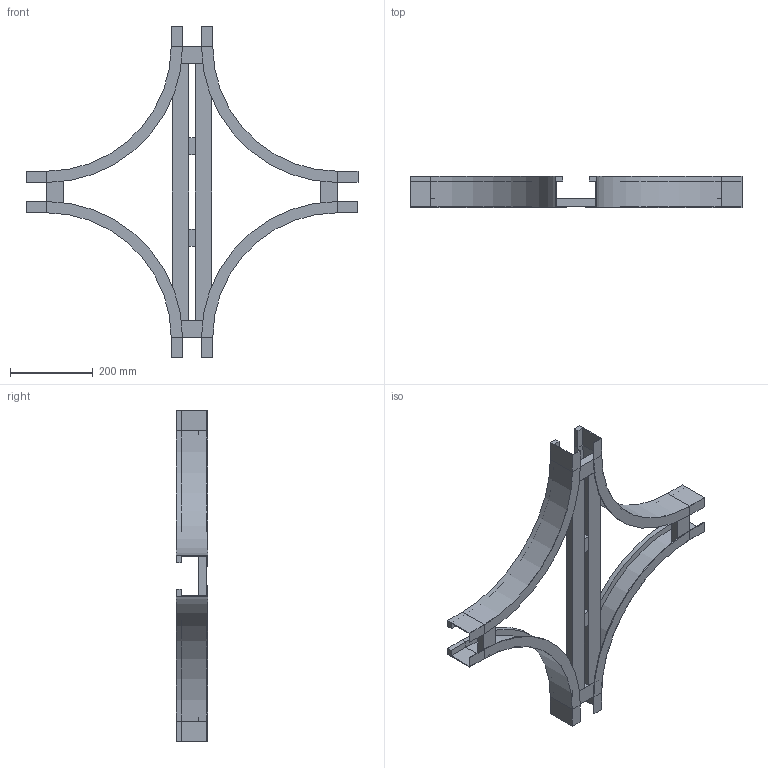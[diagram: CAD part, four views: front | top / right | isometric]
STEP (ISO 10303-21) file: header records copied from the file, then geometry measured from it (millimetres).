
FILE_DESCRIPTION (( 'STEP AP214' ), '1' );
FILE_NAME ('B2_17B3C100.step', '2025-02-21T15:58:57', ( '' ), ( '' ), 'SwSTEP 2.0', 'SolidWorks 2023', '' );
FILE_SCHEMA (( 'AUTOMOTIVE_DESIGN' ));
Length unit declared in the file: millimetre
Products named in the file (5): B2_17B3C100; B2_TRAVERSINO_LONG._R300+100; TRAVERSINO_INTERMEDIO_R300+100; B2_LONGH.INTERNO 90°_H75_R300; TRAVERSINO_100
Assembly tree (12 placements, depth 2):
  B2_17B3C100
    B2_LONGH.INTERNO 90°_H75_R300  x4
    TRAVERSINO_100  x4
    B2_TRAVERSINO_LONG._R300+100  x2
    TRAVERSINO_INTERMEDIO_R300+100  x2
Bounding box: 800 x 75 x 800 mm (x, y, z)
Volume: 2251384.1 mm3; surface area: 764291.6 mm2
Topology: 12 solids, 12 shells, 152 faces, 320 edges, 192 vertices
Faces by surface type: plane 136, cylinder 16
Entity records: 1354 total; most frequent: DIRECTION 218, CARTESIAN_POINT 207, ORIENTED_EDGE 184, EDGE_CURVE 92, LINE 84, VECTOR 84, AXIS2_PLACEMENT_3D 67, VERTEX_POINT 56
